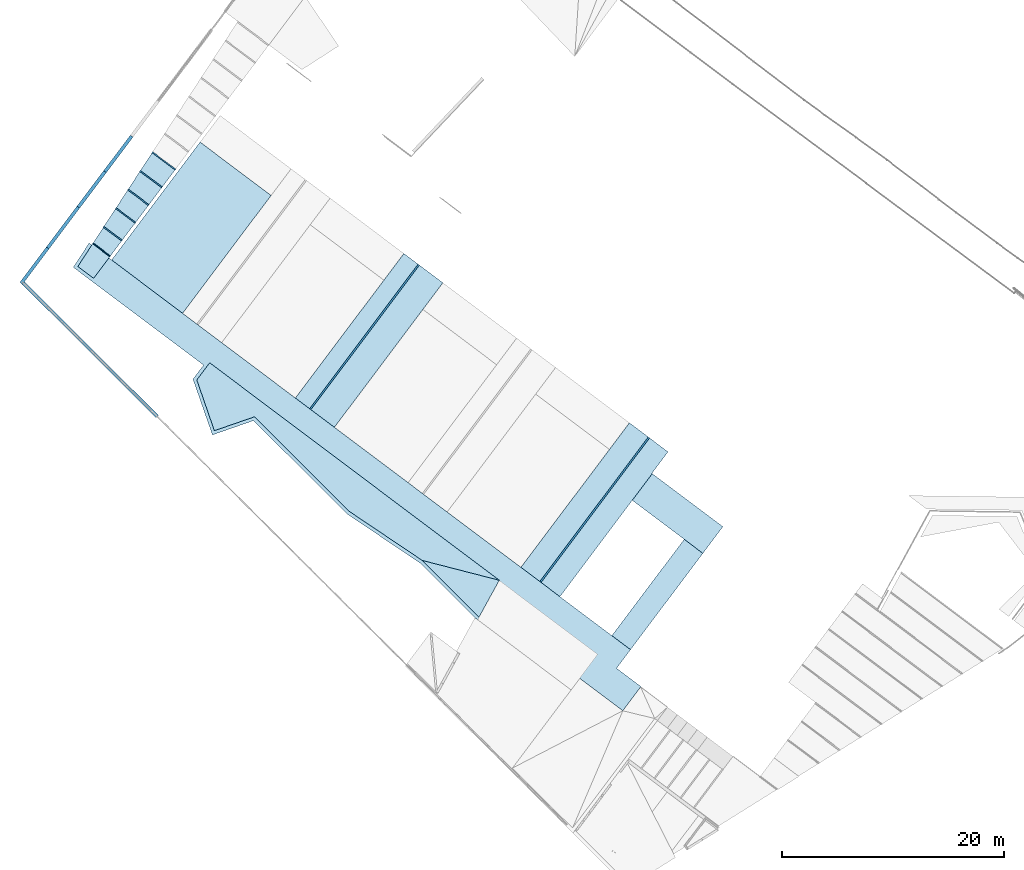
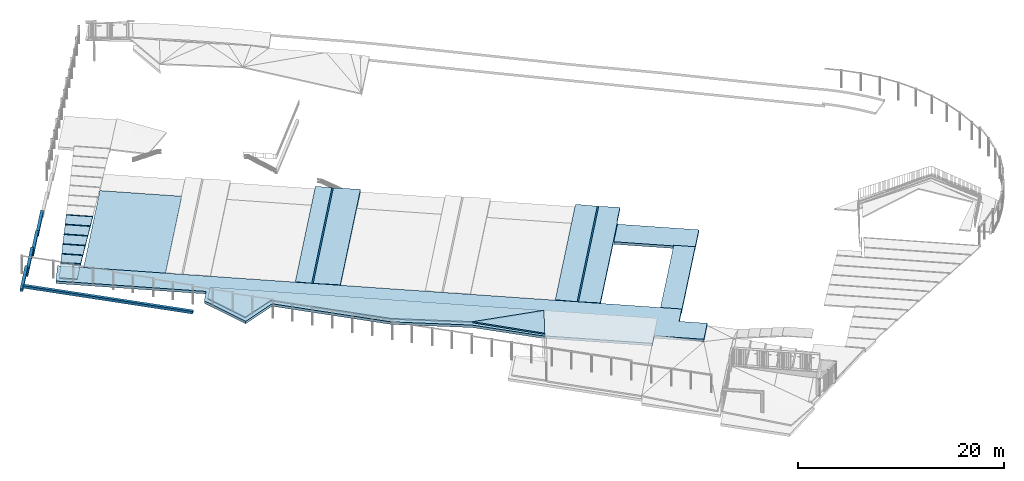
# One storey, part 20 of 33: 29 slabs.
"""IFC2X3 building model written with IfcOpenShell, lengths in metres."""

from ifc_helpers import new_model, entity, si_unit, converted_unit, derived_unit, direction, frame, frame_2d, origin, origin_2d_with_axis, place, context, subcontext, project, spatial, polyline, rectangle, outline, extrude, clip, halfspace, material, layer, layer_set, layer_usage, type_object, element, save


model = new_model("IFC2X3")

# Units and contexts
model_context = context("Model", 3, precision=1e-05, world=origin(), true_north=direction((6.123031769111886e-17, 1.0)))
body_context = subcontext(model_context, "Body", "Model", "MODEL_VIEW")
ifc_project = project(units=[si_unit("LENGTHUNIT", "METRE"), si_unit("AREAUNIT", "SQUARE_METRE"), si_unit("VOLUMEUNIT", "CUBIC_METRE"), converted_unit("PLANEANGLEUNIT", "DEGREE", entity("IfcRatioMeasure", 0.017453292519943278), si_unit("PLANEANGLEUNIT", "RADIAN"), dimensions=[0, 0, 0, 0, 0, 0, 0]), si_unit("MASSUNIT", "GRAM", prefix="KILO"), derived_unit("MASSDENSITYUNIT", [(si_unit("MASSUNIT", "GRAM", prefix="KILO"), 1), (si_unit("LENGTHUNIT", "METRE"), -3)]), derived_unit("IONCONCENTRATIONUNIT", [(si_unit("MASSUNIT", "GRAM", prefix="KILO"), 1), (si_unit("LENGTHUNIT", "METRE"), -3)]), derived_unit("MOMENTOFINERTIAUNIT", [(si_unit("LENGTHUNIT", "METRE"), 4)]), si_unit("TIMEUNIT", "SECOND"), si_unit("FREQUENCYUNIT", "HERTZ"), si_unit("THERMODYNAMICTEMPERATUREUNIT", "DEGREE_CELSIUS"), derived_unit("THERMALTRANSMITTANCEUNIT", [(si_unit("MASSUNIT", "GRAM", prefix="KILO"), 1), (si_unit("THERMODYNAMICTEMPERATUREUNIT", "KELVIN"), -1), (si_unit("TIMEUNIT", "SECOND"), -3)]), derived_unit("THERMALCONDUCTANCEUNIT", [(si_unit("MASSUNIT", "GRAM", prefix="KILO"), 1), (si_unit("THERMODYNAMICTEMPERATUREUNIT", "KELVIN"), -1), (si_unit("TIMEUNIT", "SECOND"), -3), (si_unit("LENGTHUNIT", "METRE"), 1)]), derived_unit("VOLUMETRICFLOWRATEUNIT", [(si_unit("LENGTHUNIT", "METRE"), 3), (si_unit("TIMEUNIT", "SECOND"), -1)]), derived_unit("MASSFLOWRATEUNIT", [(si_unit("MASSUNIT", "GRAM", prefix="KILO"), 1), (si_unit("TIMEUNIT", "SECOND"), -1)]), derived_unit("ROTATIONALFREQUENCYUNIT", [(si_unit("TIMEUNIT", "SECOND"), -1)]), si_unit("ELECTRICCURRENTUNIT", "AMPERE"), si_unit("ELECTRICVOLTAGEUNIT", "VOLT"), si_unit("POWERUNIT", "WATT"), si_unit("FORCEUNIT", "NEWTON", prefix="KILO"), si_unit("ILLUMINANCEUNIT", "LUX"), si_unit("LUMINOUSFLUXUNIT", "LUMEN"), si_unit("LUMINOUSINTENSITYUNIT", "CANDELA"), derived_unit("USERDEFINED", [(si_unit("MASSUNIT", "GRAM", prefix="KILO"), -1), (si_unit("LENGTHUNIT", "METRE"), -2), (si_unit("TIMEUNIT", "SECOND"), 3), (si_unit("LUMINOUSFLUXUNIT", "LUMEN"), 1)]), derived_unit("USERDEFINED", [(si_unit("MASSUNIT", "GRAM", prefix="KILO"), 1), (si_unit("TIMEUNIT", "SECOND"), -3), (si_unit("LENGTHUNIT", "METRE"), 3), (si_unit("ELECTRICCURRENTUNIT", "AMPERE"), -2)]), derived_unit("SOUNDPOWERUNIT", [(si_unit("MASSUNIT", "GRAM", prefix="KILO"), 1), (si_unit("TIMEUNIT", "SECOND"), -3), (si_unit("LENGTHUNIT", "METRE"), 2)]), derived_unit("SOUNDPRESSUREUNIT", [(si_unit("MASSUNIT", "GRAM", prefix="KILO"), 1), (si_unit("LENGTHUNIT", "METRE"), -1), (si_unit("TIMEUNIT", "SECOND"), -2)]), derived_unit("LINEARVELOCITYUNIT", [(si_unit("LENGTHUNIT", "METRE"), 1), (si_unit("TIMEUNIT", "SECOND"), -1)]), si_unit("PRESSUREUNIT", "PASCAL"), derived_unit("USERDEFINED", [(si_unit("MASSUNIT", "GRAM", prefix="KILO"), 1), (si_unit("LENGTHUNIT", "METRE"), -2), (si_unit("TIMEUNIT", "SECOND"), -2)]), derived_unit("LINEARFORCEUNIT", [(si_unit("MASSUNIT", "GRAM", prefix="KILO"), 1), (si_unit("TIMEUNIT", "SECOND"), -2)]), derived_unit("PLANARFORCEUNIT", [(si_unit("MASSUNIT", "GRAM", prefix="KILO"), 1), (si_unit("LENGTHUNIT", "METRE"), -1), (si_unit("TIMEUNIT", "SECOND"), -2)]), derived_unit("SPECIFICHEATCAPACITYUNIT", [(si_unit("THERMODYNAMICTEMPERATUREUNIT", "KELVIN"), -1), (si_unit("LENGTHUNIT", "METRE"), 2), (si_unit("TIMEUNIT", "SECOND"), -2)]), derived_unit("HEATINGVALUEUNIT", [(si_unit("LENGTHUNIT", "METRE"), 2), (si_unit("TIMEUNIT", "SECOND"), -2)]), derived_unit("VAPORPERMEABILITYUNIT", [(si_unit("LENGTHUNIT", "METRE"), -1), (si_unit("TIMEUNIT", "SECOND"), 1)]), derived_unit("DYNAMICVISCOSITYUNIT", [(si_unit("MASSUNIT", "GRAM", prefix="KILO"), 1), (si_unit("TIMEUNIT", "SECOND"), -1), (si_unit("LENGTHUNIT", "METRE"), -1)]), derived_unit("THERMALEXPANSIONCOEFFICIENTUNIT", [(si_unit("THERMODYNAMICTEMPERATUREUNIT", "KELVIN"), -1)]), derived_unit("MODULUSOFELASTICITYUNIT", [(si_unit("MASSUNIT", "GRAM", prefix="KILO"), 1), (si_unit("LENGTHUNIT", "METRE"), -1), (si_unit("TIMEUNIT", "SECOND"), -2)]), derived_unit("ISOTHERMALMOISTURECAPACITYUNIT", [(si_unit("LENGTHUNIT", "METRE"), 3), (si_unit("MASSUNIT", "GRAM", prefix="KILO"), -1)]), derived_unit("MOISTUREDIFFUSIVITYUNIT", [(si_unit("TIMEUNIT", "SECOND"), -1), (si_unit("LENGTHUNIT", "METRE"), 2)])], contexts=[model_context])

# Site, building, storey
site_placement = place(None, origin())
site = spatial("IfcSite", under=ifc_project, at=site_placement, Name="Superficie", CompositionType="ELEMENT")
building_placement = place(site_placement, frame((0.0, 0.0, 235.0), z_axis=(0.0, 0.0, 1.0), x_axis=(-0.7996477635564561, 0.6004693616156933, 0.0)))
building = spatial("IfcBuilding", under=site, at=building_placement, CompositionType="ELEMENT")
storey_placement = place(building_placement, origin())
storey = spatial("IfcBuildingStorey", under=building, at=storey_placement, Name="P0- Escola", CompositionType="ELEMENT", Elevation=0.0)

# Slabs
ifc_material_1 = material(Name="_Topografia- Plataformes")
ifc_layer_1 = layer(ifc_material_1, 0.29999999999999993)
ifc_layer_set_1 = layer_set([ifc_layer_1], Name="Plataforma:300 mm")
ifc_layer_usage_1 = layer_usage(ifc_layer_set_1, "AXIS3", "POSITIVE", 0.0)
slab_type_1 = type_object("IfcSlabType", Name="Plataforma:300 mm", PredefinedType="FLOOR", material=ifc_layer_set_1)
slab_1_placement = place(storey_placement, origin())
element("IfcSlab", 1, at=slab_1_placement, inside=storey, type_object=slab_type_1, material=ifc_layer_usage_1, Name="Plataforma:300 mm", ObjectType="Plataforma:300 mm", PredefinedType="FLOOR", context=body_context, shape_type="SweptSolid", body=[
    extrude(rectangle(XDim=7.999999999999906, YDim=13.274999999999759, at=frame_2d((-4.218847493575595e-15, -1.7763568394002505e-15), x_axis=(1.0, 0.0))), frame((70.44514768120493, -26.777691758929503, -0.7000000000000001), z_axis=(0.0, 0.0, 1.0), x_axis=(-1.0, 0.0, 0.0)), (0.0, 0.0, 1.0), 0.30000000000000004),
])
slab_2_placement = place(storey_placement, origin())
element("IfcSlab", 2, at=slab_2_placement, inside=storey, type_object=slab_type_1, material=ifc_layer_usage_1, Name="Plataforma:300 mm", ObjectType="Plataforma:300 mm", PredefinedType="FLOOR", context=body_context, shape_type="SweptSolid", body=[
    extrude(rectangle(XDim=4.000000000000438, YDim=0.3000158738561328, at=frame_2d((0.0, -8.659739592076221e-15), x_axis=(1.0, 0.0))), frame((79.69492994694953, -28.147288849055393, -1.1999999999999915), z_axis=(0.0, 0.0, 1.0), x_axis=(0.0, 1.0, 0.0)), (0.0, 0.0, 1.0), 0.30000000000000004),
])
slab_3_placement = place(storey_placement, origin())
element("IfcSlab", 3, at=slab_3_placement, inside=storey, type_object=slab_type_1, material=ifc_layer_usage_1, Name="Plataforma:300 mm", ObjectType="Plataforma:300 mm", PredefinedType="FLOOR", context=body_context, shape_type="SweptSolid", body=[
    extrude(rectangle(XDim=4.000000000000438, YDim=0.3000158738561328, at=frame_2d((0.0, -8.659739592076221e-15), x_axis=(1.0, 0.0))), frame((79.69492994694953, -24.147288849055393, -0.8000000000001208), z_axis=(0.0, 0.0, 1.0), x_axis=(0.0, 1.0, 0.0)), (0.0, 0.0, 1.0), 0.30000000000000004),
])
slab_4_placement = place(storey_placement, origin())
element("IfcSlab", 4, at=slab_4_placement, inside=storey, type_object=slab_type_1, material=ifc_layer_usage_1, Name="Plataforma:300 mm", ObjectType="Plataforma:300 mm", PredefinedType="FLOOR", context=body_context, shape_type="SweptSolid", body=[
    extrude(rectangle(XDim=4.599999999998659, YDim=0.3000158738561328, at=frame_2d((0.0, -8.659739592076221e-15), x_axis=(1.0, 0.0))), frame((79.69492994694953, -19.847288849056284, 0.0), z_axis=(0.0, 0.0, 1.0), x_axis=(0.0, 1.0, 0.0)), (0.0, 0.0, 1.0), 0.29999999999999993),
])
slab_5_placement = place(storey_placement, origin())
element("IfcSlab", 5, at=slab_5_placement, inside=storey, type_object=slab_type_1, material=ifc_layer_usage_1, Name="Plataforma:300 mm", ObjectType="Plataforma:300 mm", PredefinedType="FLOOR", context=body_context, shape_type="SweptSolid", body=[
    extrude(outline(polyline([(-1.9874687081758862, -0.15000793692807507), (1.966400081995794, -0.15000793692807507), (2.008537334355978, 0.15000793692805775), (-1.9874687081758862, 0.15000793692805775), (-1.9874687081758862, -0.15000793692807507)])), frame((79.69492994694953, -15.559820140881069, 1.0), z_axis=(0.0, 0.0, 1.0), x_axis=(0.0, 1.0, 0.0)), (0.0, 0.0, 1.0), 0.30000000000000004),
])
slab_6_placement = place(storey_placement, origin())
element("IfcSlab", 6, at=slab_6_placement, inside=storey, type_object=slab_type_1, material=ifc_layer_usage_1, Name="Plataforma:300 mm", ObjectType="Plataforma:300 mm", PredefinedType="FLOOR", context=body_context, shape_type="SweptSolid", body=[
    extrude(outline(polyline([(-0.15002132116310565, -8.51490163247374), (0.1500213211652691, -8.514901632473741), (0.15002132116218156, 8.535972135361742), (-0.15002132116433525, 8.493831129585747), (-0.15002132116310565, -8.51490163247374)])), frame((71.11278146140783, -12.518438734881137, 1.42), z_axis=(0.0, 0.0, 1.0), x_axis=(-0.13908496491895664, -0.9902804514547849, 0.0)), (0.0, 0.0, 1.0), 0.2999999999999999),
])
slab_7_placement = place(storey_placement, origin())
element("IfcSlab", 7, at=slab_7_placement, inside=storey, type_object=slab_type_1, material=ifc_layer_usage_1, Name="Plataforma:300 mm", ObjectType="Plataforma:300 mm", PredefinedType="FLOOR", context=body_context, shape_type="SweptSolid", body=[
    extrude(rectangle(XDim=2.999999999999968, YDim=7.950000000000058, at=frame_2d((-4.3298697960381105e-15, 1.1102230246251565e-15), x_axis=(1.0, 0.0))), frame((19.970147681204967, -32.48920390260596, -0.82), z_axis=(0.0, 0.0, 1.0), x_axis=(0.0, 1.0, 0.0)), (0.0, 0.0, 1.0), 0.29999999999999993),
])
slab_8_placement = place(storey_placement, origin())
element("IfcSlab", 8, at=slab_8_placement, inside=storey, type_object=slab_type_1, material=ifc_layer_usage_1, Name="Plataforma:300 mm", ObjectType="Plataforma:300 mm", PredefinedType="FLOOR", context=body_context, shape_type="SweptSolid", body=[
    extrude(rectangle(XDim=10.849012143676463, YDim=2.1000000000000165, at=origin_2d_with_axis()), frame((17.045147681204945, -25.56469783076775, -0.7399999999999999), z_axis=(0.0, 0.0, 1.0), x_axis=(0.0, 1.0, 0.0)), (0.0, 0.0, 1.0), 0.2999999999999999),
])
slab_9_placement = place(storey_placement, frame((52.145147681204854, -36.41519175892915, -0.5701464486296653)))
element("IfcSlab", 9, at=slab_9_placement, inside=storey, type_object=slab_type_1, material=ifc_layer_usage_1, Name="Plataforma:300 mm", ObjectType="Plataforma:300 mm", PredefinedType="FLOOR", context=body_context, shape_type="SweptSolid", body=[
    extrude(rectangle(XDim=16.274999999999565, YDim=1.600781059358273, at=frame_2d((-0.8003905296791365, 0.0), x_axis=(0.0, 1.0))), frame((1.6000000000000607, 8.137499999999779, 0.3501464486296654), z_axis=(0.031234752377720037, 0.0, -0.9995120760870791), x_axis=(0.9995120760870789, 0.0, 0.03123475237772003)), (-0.03123475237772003, 0.0, 0.9995120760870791), 0.3001464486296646),
])
slab_10_placement = place(storey_placement, frame((49.34514768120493, -36.41519175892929, -0.570053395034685)))
element("IfcSlab", 10, at=slab_10_placement, inside=storey, type_object=slab_type_1, material=ifc_layer_usage_1, Name="Plataforma:300 mm", ObjectType="Plataforma:300 mm", PredefinedType="FLOOR", context=body_context, shape_type="SweptSolid", body=[
    extrude(rectangle(XDim=16.2749999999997, YDim=2.6504716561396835, at=frame_2d((1.3252358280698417, 0.0), x_axis=(0.0, -1.0))), frame((0.0, 8.137499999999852, 0.350053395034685), z_axis=(0.018864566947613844, 0.0, 0.9998220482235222), x_axis=(0.9998220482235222, 0.0, -0.018864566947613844)), (0.018864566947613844, 0.0, -0.9998220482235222), 0.3000533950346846),
])
slab_11_placement = place(storey_placement, origin())
element("IfcSlab", 11, at=slab_11_placement, inside=storey, type_object=slab_type_1, material=ifc_layer_usage_1, Name="Plataforma:300 mm", ObjectType="Plataforma:300 mm", PredefinedType="FLOOR", context=body_context, shape_type="SweptSolid", body=[
    extrude(rectangle(XDim=0.14999999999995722, YDim=16.27499999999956, at=frame_2d((-4.336808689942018e-15, -1.7763568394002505e-15), x_axis=(1.0, 0.0))), frame((52.07014768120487, -28.277691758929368, -0.57), z_axis=(0.0, 0.0, 1.0), x_axis=(-1.0, 0.0, 0.0)), (0.0, 0.0, 1.0), 0.29999999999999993),
])
slab_12_placement = place(storey_placement, frame((23.945147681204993, -36.415191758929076, -0.5700830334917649)))
element("IfcSlab", 12, at=slab_12_placement, inside=storey, type_object=slab_type_1, material=ifc_layer_usage_1, Name="Plataforma:300 mm", ObjectType="Plataforma:300 mm", PredefinedType="FLOOR", context=body_context, shape_type="SweptSolid", body=[
    extrude(outline(polyline([(2.1255881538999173, 6.924506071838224), (0.0, 6.924506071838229), (0.0, -6.924506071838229), (0.0500138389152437, -6.924506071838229), (0.05001383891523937, -9.35049392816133), (2.1255881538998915, -9.350493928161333), (2.1255881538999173, 6.924506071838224)])), frame((0.0, 9.350493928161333, 0.35008303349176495), z_axis=(0.02352290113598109, 0.0, 0.9997232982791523), x_axis=(0.9997232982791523, 0.0, -0.02352290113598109)), (0.02352290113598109, 0.0, -0.9997232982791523), 0.3000830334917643),
])
slab_13_placement = place(storey_placement, frame((26.220147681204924, -36.41519175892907, -0.5700830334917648)))
element("IfcSlab", 13, at=slab_13_placement, inside=storey, type_object=slab_type_1, material=ifc_layer_usage_1, Name="Plataforma:300 mm", ObjectType="Plataforma:300 mm", PredefinedType="FLOOR", context=body_context, shape_type="SweptSolid", body=[
    extrude(rectangle(XDim=2.1255881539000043, YDim=16.274999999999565, at=frame_2d((-1.0627940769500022, 0.0), x_axis=(1.0, 0.0))), frame((2.125000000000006, 8.137499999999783, 0.3500830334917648), z_axis=(0.023522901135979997, 0.0, -0.9997232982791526), x_axis=(0.9997232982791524, 0.0, 0.02352290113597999)), (-0.02352290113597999, 0.0, 0.9997232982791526), 0.3000830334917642),
])
slab_14_placement = place(storey_placement, origin())
element("IfcSlab", 14, at=slab_14_placement, inside=storey, type_object=slab_type_1, material=ifc_layer_usage_1, Name="Plataforma:300 mm", ObjectType="Plataforma:300 mm", PredefinedType="FLOOR", context=body_context, shape_type="SweptSolid", body=[
    extrude(rectangle(XDim=0.15000000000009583, YDim=16.274999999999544, at=frame_2d((0.0, 1.7763568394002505e-15), x_axis=(1.0, 0.0))), frame((26.145147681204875, -28.277691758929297, -0.57), z_axis=(0.0, 0.0, 1.0), x_axis=(-1.0, 0.0, 0.0)), (0.0, 0.0, 1.0), 0.29999999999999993),
])
slab_15_placement = place(storey_placement, origin())
element("IfcSlab", 15, at=slab_15_placement, inside=storey, type_object=slab_type_1, material=ifc_layer_usage_1, Name="Plataforma:300 mm", ObjectType="Plataforma:300 mm", PredefinedType="FLOOR", context=body_context, shape_type="SweptSolid", body=[
    extrude(outline(polyline([(1.7121053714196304, -23.636329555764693), (3.812107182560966, -23.636329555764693), (3.8121071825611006, 37.34555994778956), (1.2153256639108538, 37.17454818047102), (1.215325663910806, 22.50032598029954), (-0.3717801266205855, 22.500325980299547), (-3.3336087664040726, 18.090175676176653), (-0.08231342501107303, 15.906626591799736), (-1.7415370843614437, 4.0930078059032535), (-1.3313318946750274, -3.79347662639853), (-2.301359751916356, -10.700043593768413), (-2.3013597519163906, -21.535865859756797), (-1.007892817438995, -21.535865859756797), (-1.0078928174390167, -26.38632955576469), (1.7121053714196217, -26.38632955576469), (1.7121053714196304, -23.636329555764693)])), frame((39.63147723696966, -16.328084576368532, -0.5700000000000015), z_axis=(0.0, 0.0, 1.0), x_axis=(0.0, -1.0, 0.0)), (0.0, 0.0, 1.0), 0.29999999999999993),
])
ifc_material_2 = material(Name="_Formigó- Solera- T1- STR")
ifc_layer_2 = layer(ifc_material_2, 0.14999999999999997)
ifc_layer_set_2 = layer_set([ifc_layer_2], Name="Suelo:STR- L- Formigó- Solera- T1- 15 cm")
ifc_layer_usage_2 = layer_usage(ifc_layer_set_2, "AXIS3", "POSITIVE", 0.0)
slab_type_2 = type_object("IfcSlabType", Name="Suelo:STR- L- Formigó- Solera- T1- 15 cm", PredefinedType="FLOOR", material=ifc_layer_set_2)
slab_16_placement = place(storey_placement, origin())
element("IfcSlab", 16, at=slab_16_placement, inside=storey, type_object=slab_type_2, material=ifc_layer_usage_2, Name="Suelo:STR- L- Formigó- Solera- T1- 15 cm", ObjectType="Suelo:STR- L- Formigó- Solera- T1- 15 cm", PredefinedType="FLOOR", context=body_context, shape_type="SweptSolid", body=[
    clip(clip(extrude(outline(polyline([(-1.2211290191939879, -0.9301934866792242), (1.2211290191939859, -0.9301934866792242), (1.2211290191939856, 0.8497917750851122), (-1.2211290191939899, 1.0105951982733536), (-1.2211290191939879, -0.9301934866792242)])), frame((75.67534116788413, -19.064306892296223, -0.0415176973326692), z_axis=(0.0, -0.01999600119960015, -0.999800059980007), x_axis=(0.0, 0.999800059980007, -0.01999600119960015)), (0.01999600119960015, 0.0, 0.999800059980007), 0.15006000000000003), halfspace(frame((77.29504278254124, -20.140191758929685, -0.17002999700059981), z_axis=(0.0, -0.01999600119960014, -0.999800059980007), x_axis=(0.0, 0.999800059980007, -0.01999600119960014)), False)), halfspace(frame((77.29504278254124, -20.140191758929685, -0.02), z_axis=(0.0, 0.01999600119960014, 0.999800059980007), x_axis=(0.0, -0.999800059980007, 0.01999600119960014)), False)),
])
slab_17_placement = place(storey_placement, origin())
element("IfcSlab", 17, at=slab_17_placement, inside=storey, type_object=slab_type_2, material=ifc_layer_usage_2, Name="Suelo:STR- L- Formigó- Solera- T1- 15 cm", ObjectType="Suelo:STR- L- Formigó- Solera- T1- 15 cm", PredefinedType="FLOOR", context=body_context, shape_type="SweptSolid", body=[
    clip(clip(extrude(outline(polyline([(-0.04012779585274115, -1.2935791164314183), (0.04012779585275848, -1.2935791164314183), (0.04012779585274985, 1.2909449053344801), (-0.04012779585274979, 1.2962133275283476), (-0.04012779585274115, -1.2935791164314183)])), frame((76.03872679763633, -30.100191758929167, -1.1957999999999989), z_axis=(0.0, 0.0797452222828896, -0.9968152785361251), x_axis=(0.0, 0.9968152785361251, 0.0797452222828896)), (-0.0797452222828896, 0.0, 0.9968152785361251), 0.15096000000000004), halfspace(frame((74.74514768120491, -30.060191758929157, -1.3430792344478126), z_axis=(0.0, 0.07974522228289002, -0.9968152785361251), x_axis=(0.0, 0.9968152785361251, 0.07974522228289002)), False)), halfspace(frame((74.74514768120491, -30.060191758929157, -1.1925999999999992), z_axis=(0.0, -0.07974522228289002, 0.9968152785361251), x_axis=(0.0, -0.9968152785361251, -0.07974522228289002)), False)),
])
slab_18_placement = place(storey_placement, origin())
element("IfcSlab", 18, at=slab_18_placement, inside=storey, type_object=slab_type_2, material=ifc_layer_usage_2, Name="Suelo:STR- L- Formigó- Solera- T1- 15 cm", ObjectType="Suelo:STR- L- Formigó- Solera- T1- 15 cm", PredefinedType="FLOOR", context=body_context, shape_type="SweptSolid", body=[
    clip(clip(extrude(outline(polyline([(-0.04012779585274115, -1.2277238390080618), (0.04012779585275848, -1.2277238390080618), (0.04012779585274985, 1.2250896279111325), (-0.04012779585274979, 1.230358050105), (-0.04012779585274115, -1.2277238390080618)])), frame((75.97287152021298, -28.10019175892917, -0.9527999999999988), z_axis=(0.0, 0.0797452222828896, -0.9968152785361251), x_axis=(0.0, 0.9968152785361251, 0.0797452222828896)), (-0.0797452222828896, 0.0, 0.9968152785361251), 0.15096000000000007), halfspace(frame((74.74514768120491, -28.060191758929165, -1.1000792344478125), z_axis=(0.0, 0.07974522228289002, -0.9968152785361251), x_axis=(0.0, 0.9968152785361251, 0.07974522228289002)), False)), halfspace(frame((74.74514768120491, -28.060191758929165, -0.9495999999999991), z_axis=(0.0, -0.07974522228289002, 0.9968152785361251), x_axis=(0.0, -0.9968152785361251, -0.07974522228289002)), False)),
])
slab_19_placement = place(storey_placement, origin())
element("IfcSlab", 19, at=slab_19_placement, inside=storey, type_object=slab_type_2, material=ifc_layer_usage_2, Name="Suelo:STR- L- Formigó- Solera- T1- 15 cm", ObjectType="Suelo:STR- L- Formigó- Solera- T1- 15 cm", PredefinedType="FLOOR", context=body_context, shape_type="SweptSolid", body=[
    clip(clip(extrude(outline(polyline([(-0.04012779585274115, -1.1618685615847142), (0.04012779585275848, -1.1618685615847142), (0.04012779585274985, 1.1592343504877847), (-0.04012779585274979, 1.1645027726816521), (-0.04012779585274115, -1.1618685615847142)])), frame((75.90701624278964, -26.100191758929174, -0.7097999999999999), z_axis=(0.0, 0.0797452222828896, -0.9968152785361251), x_axis=(0.0, 0.9968152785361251, 0.0797452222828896)), (-0.0797452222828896, 0.0, 0.9968152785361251), 0.1509600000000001), halfspace(frame((74.74514768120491, -26.060191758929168, -0.8570792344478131), z_axis=(0.0, 0.07974522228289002, -0.9968152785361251), x_axis=(0.0, 0.9968152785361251, 0.07974522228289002)), False)), halfspace(frame((74.74514768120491, -26.060191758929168, -0.7065999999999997), z_axis=(0.0, -0.07974522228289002, 0.9968152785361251), x_axis=(0.0, -0.9968152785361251, -0.07974522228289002)), False)),
])
slab_20_placement = place(storey_placement, origin())
element("IfcSlab", 20, at=slab_20_placement, inside=storey, type_object=slab_type_2, material=ifc_layer_usage_2, Name="Suelo:STR- L- Formigó- Solera- T1- 15 cm", ObjectType="Suelo:STR- L- Formigó- Solera- T1- 15 cm", PredefinedType="FLOOR", context=body_context, shape_type="SweptSolid", body=[
    clip(clip(extrude(outline(polyline([(-0.04012779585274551, -1.0960132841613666), (0.04012779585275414, -1.0960132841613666), (0.0401277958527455, 1.0933790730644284), (-0.04012779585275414, 1.0986474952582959), (-0.04012779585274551, -1.0960132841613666)])), frame((75.84116096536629, -24.100191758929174, -0.46679999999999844), z_axis=(0.0, 0.07974522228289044, -0.9968152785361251), x_axis=(0.0, 0.9968152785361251, 0.07974522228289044)), (-0.07974522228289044, 0.0, 0.9968152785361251), 0.15096000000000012), halfspace(frame((74.74514768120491, -24.06019175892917, -0.6140792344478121), z_axis=(0.0, 0.07974522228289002, -0.9968152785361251), x_axis=(0.0, 0.9968152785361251, 0.07974522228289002)), False)), halfspace(frame((74.74514768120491, -24.06019175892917, -0.4635999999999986), z_axis=(0.0, -0.07974522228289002, 0.9968152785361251), x_axis=(0.0, -0.9968152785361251, -0.07974522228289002)), False)),
])
slab_21_placement = place(storey_placement, origin())
element("IfcSlab", 21, at=slab_21_placement, inside=storey, type_object=slab_type_2, material=ifc_layer_usage_2, Name="Suelo:STR- L- Formigó- Solera- T1- 15 cm", ObjectType="Suelo:STR- L- Formigó- Solera- T1- 15 cm", PredefinedType="FLOOR", context=body_context, shape_type="SweptSolid", body=[
    clip(clip(extrude(outline(polyline([(-0.0401277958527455, -1.030158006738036), (0.04012779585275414, -1.030158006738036), (0.0401277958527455, 1.0275237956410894), (-0.04012779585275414, 1.032792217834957), (-0.0401277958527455, -1.030158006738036)])), frame((75.77530568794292, -22.100191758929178, -0.22379999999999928), z_axis=(0.0, 0.07974522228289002, -0.9968152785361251), x_axis=(0.0, 0.9968152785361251, 0.07974522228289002)), (-0.07974522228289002, 0.0, 0.9968152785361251), 0.15096000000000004), halfspace(frame((74.74514768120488, -22.060191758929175, -0.3710792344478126), z_axis=(0.0, 0.07974522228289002, -0.9968152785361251), x_axis=(0.0, 0.9968152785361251, 0.07974522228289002)), False)), halfspace(frame((74.74514768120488, -22.060191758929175, -0.22059999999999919), z_axis=(0.0, -0.07974522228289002, 0.9968152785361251), x_axis=(0.0, -0.9968152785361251, -0.07974522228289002)), False)),
])
slab_22_placement = place(storey_placement, origin())
element("IfcSlab", 22, at=slab_22_placement, inside=storey, type_object=slab_type_2, material=ifc_layer_usage_2, Name="Suelo:STR- L- Formigó- Solera- T1- 15 cm", ObjectType="Suelo:STR- L- Formigó- Solera- T1- 15 cm", PredefinedType="FLOOR", context=body_context, shape_type="SweptSolid", body=[
    extrude(outline(polyline([(-0.03999999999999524, -0.9717114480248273), (0.0400000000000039, -0.9717114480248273), (0.03999999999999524, 0.9690772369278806), (-0.0400000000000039, 0.9743456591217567), (-0.03999999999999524, -0.9717114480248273)])), frame((75.7168591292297, -20.3251917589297, -0.017099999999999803), z_axis=(0.0, 0.0, -1.0), x_axis=(0.0, 1.0, 0.0)), (0.0, 0.0, 1.0), 0.14999999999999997),
])
ifc_material_3 = material(Name="_Saulo T1- PAV")
ifc_layer_3 = layer(ifc_material_3, 0.14999999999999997)
ifc_layer_set_3 = layer_set([ifc_layer_3], Name="Suelo:PAV- Saulo- 15 cm- T1")
ifc_layer_usage_3 = layer_usage(ifc_layer_set_3, "AXIS3", "POSITIVE", 0.0)
slab_type_3 = type_object("IfcSlabType", Name="Suelo:PAV- Saulo- 15 cm- T1", PredefinedType="FLOOR", material=ifc_layer_set_3)
slab_23_placement = place(storey_placement, origin())
element("IfcSlab", 23, at=slab_23_placement, inside=storey, type_object=slab_type_3, material=ifc_layer_usage_3, Name="Suelo:PAV- Saulo- 15 cm- T1", ObjectType="Suelo:PAV- Saulo- 15 cm- T1", PredefinedType="FLOOR", context=body_context, shape_type="SweptSolid", body=[
    clip(clip(extrude(outline(polyline([(-0.9630671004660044, -1.26065147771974), (0.9630671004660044, -1.26065147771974), (0.9630671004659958, 1.1974304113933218), (-0.963067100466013, 1.3238725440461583), (-0.9630671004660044, -1.26065147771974)])), frame((76.00579915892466, -29.10019175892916, -1.1157999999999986), z_axis=(0.0, 0.07974522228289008, -0.9968152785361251), x_axis=(0.0, 0.9968152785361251, 0.07974522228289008)), (-0.07974522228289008, 0.0, 0.9968152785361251), 0.15096000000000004), halfspace(frame((74.74514768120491, -28.140191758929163, -1.1894792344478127), z_axis=(0.0, 0.07974522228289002, -0.9968152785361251), x_axis=(0.0, 0.9968152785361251, 0.07974522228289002)), False)), halfspace(frame((74.74514768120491, -28.140191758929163, -1.0389999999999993), z_axis=(0.0, -0.07974522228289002, 0.9968152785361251), x_axis=(0.0, -0.9968152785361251, -0.07974522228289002)), False)),
])
slab_24_placement = place(storey_placement, origin())
element("IfcSlab", 24, at=slab_24_placement, inside=storey, type_object=slab_type_3, material=ifc_layer_usage_3, Name="Suelo:PAV- Saulo- 15 cm- T1", ObjectType="Suelo:PAV- Saulo- 15 cm- T1", PredefinedType="FLOOR", context=body_context, shape_type="SweptSolid", body=[
    clip(clip(extrude(outline(polyline([(-0.9630671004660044, -1.1947962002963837), (0.9630671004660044, -1.1947962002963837), (0.9630671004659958, 1.1315751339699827), (-0.963067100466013, 1.2580172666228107), (-0.9630671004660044, -1.1947962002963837)])), frame((75.9399438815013, -27.100191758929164, -0.8727999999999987), z_axis=(0.0, 0.07974522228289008, -0.9968152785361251), x_axis=(0.0, 0.9968152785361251, 0.07974522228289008)), (-0.07974522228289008, 0.0, 0.9968152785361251), 0.15096000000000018), halfspace(frame((74.74514768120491, -26.140191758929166, -0.9464792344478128), z_axis=(0.0, 0.07974522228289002, -0.9968152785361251), x_axis=(0.0, 0.9968152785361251, 0.07974522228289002)), False)), halfspace(frame((74.74514768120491, -26.140191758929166, -0.7959999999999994), z_axis=(0.0, -0.07974522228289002, 0.9968152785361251), x_axis=(0.0, -0.9968152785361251, -0.07974522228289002)), False)),
])
slab_25_placement = place(storey_placement, origin())
element("IfcSlab", 25, at=slab_25_placement, inside=storey, type_object=slab_type_3, material=ifc_layer_usage_3, Name="Suelo:PAV- Saulo- 15 cm- T1", ObjectType="Suelo:PAV- Saulo- 15 cm- T1", PredefinedType="FLOOR", context=body_context, shape_type="SweptSolid", body=[
    clip(clip(extrude(outline(polyline([(-0.9630671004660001, -1.128940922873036), (0.9630671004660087, -1.128940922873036), (0.9630671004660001, 1.0657198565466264), (-0.9630671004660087, 1.192161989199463), (-0.9630671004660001, -1.128940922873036)])), frame((75.87408860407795, -25.100191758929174, -0.6297999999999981), z_axis=(0.0, 0.07974522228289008, -0.9968152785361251), x_axis=(0.0, 0.9968152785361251, 0.07974522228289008)), (-0.07974522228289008, 0.0, 0.9968152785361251), 0.15096000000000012), halfspace(frame((74.74514768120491, -24.14019175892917, -0.7034792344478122), z_axis=(0.0, 0.07974522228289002, -0.9968152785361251), x_axis=(0.0, 0.9968152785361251, 0.07974522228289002)), False)), halfspace(frame((74.74514768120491, -24.14019175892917, -0.5529999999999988), z_axis=(0.0, -0.07974522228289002, 0.9968152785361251), x_axis=(0.0, -0.9968152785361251, -0.07974522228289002)), False)),
])
slab_26_placement = place(storey_placement, origin())
element("IfcSlab", 26, at=slab_26_placement, inside=storey, type_object=slab_type_3, material=ifc_layer_usage_3, Name="Suelo:PAV- Saulo- 15 cm- T1", ObjectType="Suelo:PAV- Saulo- 15 cm- T1", PredefinedType="FLOOR", context=body_context, shape_type="SweptSolid", body=[
    clip(clip(extrude(outline(polyline([(-0.9630671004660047, -1.06308564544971), (0.963067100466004, -1.06308564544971), (0.9630671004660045, 0.9998645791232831), (-0.9630671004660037, 1.1263067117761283), (-0.9630671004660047, -1.06308564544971)])), frame((75.80823332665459, -23.100191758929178, -0.38679999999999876), z_axis=(0.0, 0.07974522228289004, -0.9968152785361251), x_axis=(0.0, 0.9968152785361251, 0.07974522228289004)), (-0.07974522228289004, 0.0, 0.9968152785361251), 0.1509600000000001), halfspace(frame((74.74514768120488, -22.140191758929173, -0.4604792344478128), z_axis=(0.0, 0.07974522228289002, -0.9968152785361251), x_axis=(0.0, 0.9968152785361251, 0.07974522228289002)), False)), halfspace(frame((74.74514768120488, -22.140191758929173, -0.3099999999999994), z_axis=(0.0, -0.07974522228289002, 0.9968152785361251), x_axis=(0.0, -0.9968152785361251, -0.07974522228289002)), False)),
])
slab_27_placement = place(storey_placement, origin())
element("IfcSlab", 27, at=slab_27_placement, inside=storey, type_object=slab_type_3, material=ifc_layer_usage_3, Name="Suelo:PAV- Saulo- 15 cm- T1", ObjectType="Suelo:PAV- Saulo- 15 cm- T1", PredefinedType="FLOOR", context=body_context, shape_type="SweptSolid", body=[
    clip(clip(extrude(outline(polyline([(-0.8502076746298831, -1.000934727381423), (0.8502076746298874, -1.000934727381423), (0.8502076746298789, 0.9451223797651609), (-0.8502076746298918, 1.0567470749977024), (-0.8502076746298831, -1.000934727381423)])), frame((75.7460824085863, -21.212691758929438, -0.1528000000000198), z_axis=(0.0, 0.07974522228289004, -0.9968152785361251), x_axis=(0.0, 0.9968152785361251, 0.07974522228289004)), (-0.07974522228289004, 0.0, 0.9968152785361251), 0.15096), halfspace(frame((74.74514768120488, -20.365191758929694, -0.23547923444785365), z_axis=(0.0, 0.07974522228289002, -0.9968152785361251), x_axis=(0.0, 0.9968152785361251, 0.07974522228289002)), False)), halfspace(frame((74.74514768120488, -20.365191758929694, -0.08500000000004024), z_axis=(0.0, -0.07974522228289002, 0.9968152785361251), x_axis=(0.0, -0.9968152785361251, -0.07974522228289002)), False)),
])
slab_28_placement = place(storey_placement, origin())
element("IfcSlab", 28, at=slab_28_placement, inside=storey, type_object=slab_type_3, material=ifc_layer_usage_3, Name="Suelo:PAV- Saulo- 15 cm- T1", ObjectType="Suelo:PAV- Saulo- 15 cm- T1", PredefinedType="FLOOR", context=body_context, shape_type="SweptSolid", body=[
    extrude(outline(polyline([(-12.41469088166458, -1.9900753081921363), (20.21263613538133, -1.990075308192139), (13.585864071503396, 0.7491278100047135), (5.693242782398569, 1.1627625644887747), (-6.263740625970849, -0.5176818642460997), (-8.398620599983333, 2.6474078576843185), (-12.414690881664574, -0.061465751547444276), (-12.41469088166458, -1.9900753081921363)])), frame((49.41023126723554, -16.050116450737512, -0.06999999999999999), z_axis=(0.0, 0.0, -1.0), x_axis=(-1.0, 0.0, 0.0)), (0.0, 0.0, 1.0), 0.14999999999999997),
])
slab_29_placement = place(storey_placement, origin())
element("IfcSlab", 29, at=slab_29_placement, inside=storey, type_object=slab_type_3, material=ifc_layer_usage_3, Name="Suelo:PAV- Saulo- 15 cm- T1", ObjectType="Suelo:PAV- Saulo- 15 cm- T1", PredefinedType="FLOOR", context=body_context, shape_type="SweptSolid", body=[
    clip(clip(extrude(outline(polyline([(-2.75879252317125, -1.211768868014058), (4.469780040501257, -1.2117688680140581), (-1.710987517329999, 2.4235377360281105), (-2.75879252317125, -1.211768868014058)])), frame((31.229480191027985, -15.878731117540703, -0.09333333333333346), z_axis=(0.0072967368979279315, -0.017652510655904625, -0.9998175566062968), x_axis=(0.9902216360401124, -0.13916657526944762, 0.009683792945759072)), (-0.009683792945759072, -0.016464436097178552, 0.9998175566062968), 0.15005474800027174), halfspace(frame((28.666478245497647, -14.295012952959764, -0.2900273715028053), z_axis=(0.0072967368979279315, -0.01765251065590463, -0.999817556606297), x_axis=(0.381935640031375, -0.9239915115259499, 0.01910113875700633)), False)), halfspace(frame((28.666478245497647, -14.295012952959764, -0.14), z_axis=(-0.0072967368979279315, 0.01765251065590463, 0.999817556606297), x_axis=(-0.381935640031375, 0.9239915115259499, -0.01910113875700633)), False)),
])

save(model, "model.ifc")
